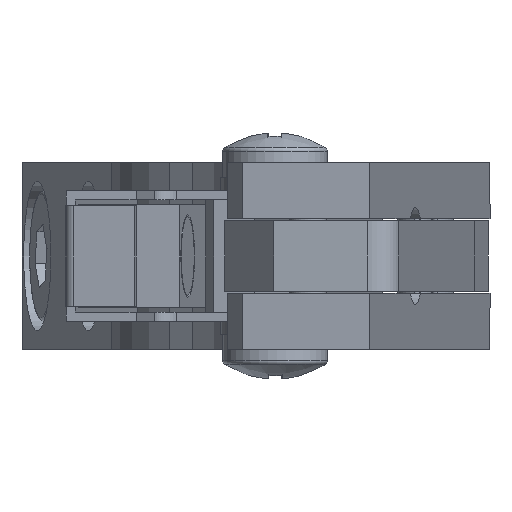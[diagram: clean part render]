
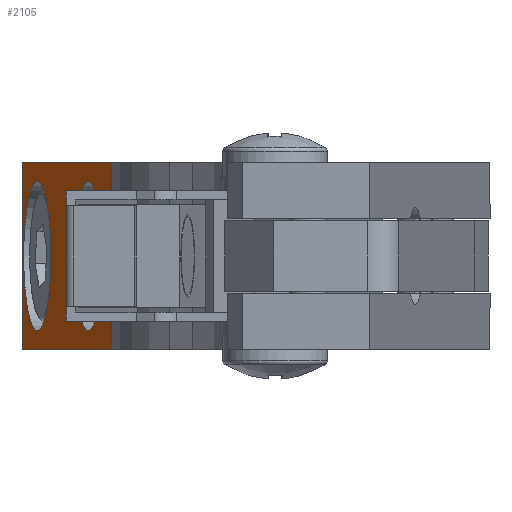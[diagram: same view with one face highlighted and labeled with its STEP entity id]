
A CAD part, left-side view. The second image highlights one B-rep face of the part: STEP entity #2105.
In plain terms, the highlighted planar face has unit normal (-0.182, 0.983, 0).
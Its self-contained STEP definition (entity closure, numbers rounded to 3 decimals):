
#450 = CARTESIAN_POINT ( 'NONE',  ( -55.242, 84.588, -5. ) ) ;
#471 = CIRCLE ( 'NONE', #4709, 4. ) ;
#605 = CIRCLE ( 'NONE', #1070, 4. ) ;
#612 = VERTEX_POINT ( 'NONE', #8929 ) ;
#975 = CARTESIAN_POINT ( 'NONE',  ( -74.416, 81.039, 0. ) ) ;
#1070 = AXIS2_PLACEMENT_3D ( 'NONE', #975, #5817, #1634 ) ;
#1074 = VERTEX_POINT ( 'NONE', #6195 ) ;
#1088 = VERTEX_POINT ( 'NONE', #450 ) ;
#1128 = EDGE_CURVE ( 'NONE', #1074, #612, #6874, .T. ) ;
#1390 = AXIS2_PLACEMENT_3D ( 'NONE', #2629, #2943, #3358 ) ;
#1634 = DIRECTION ( 'NONE',  ( -0.983, -0.182, 0. ) ) ;
#2105 = ADVANCED_FACE ( 'NONE', ( #5299, #5305, #5267 ), #2514, .F. ) ;
#2225 = VERTEX_POINT ( 'NONE', #8209 ) ;
#2270 = VECTOR ( 'NONE', #3662, 1000. ) ;
#2322 = LINE ( 'NONE', #4389, #2270 ) ;
#2370 = DIRECTION ( 'NONE',  ( -0.182, 0.983, 0. ) ) ;
#2514 = PLANE ( 'NONE',  #1390 ) ;
#2629 = CARTESIAN_POINT ( 'NONE',  ( -79.574, 80.084, 5. ) ) ;
#2835 = CARTESIAN_POINT ( 'NONE',  ( -79.574, 80.084, -5. ) ) ;
#2922 = EDGE_LOOP ( 'NONE', ( #6063 ) ) ;
#2943 = DIRECTION ( 'NONE',  ( 0.182, -0.983, 0. ) ) ;
#3090 = CARTESIAN_POINT ( 'NONE',  ( -55.242, 84.588, 5. ) ) ;
#3358 = DIRECTION ( 'NONE',  ( 0.983, 0.182, 0. ) ) ;
#3360 = EDGE_LOOP ( 'NONE', ( #5588, #5691, #5895, #5213 ) ) ;
#3662 = DIRECTION ( 'NONE',  ( 0., 0., 1. ) ) ;
#3757 = EDGE_LOOP ( 'NONE', ( #5509 ) ) ;
#4152 = EDGE_CURVE ( 'NONE', #2225, #612, #2322, .T. ) ;
#4389 = CARTESIAN_POINT ( 'NONE',  ( -81.2, 79.783, 5. ) ) ;
#4588 = VERTEX_POINT ( 'NONE', #5640 ) ;
#4606 = VERTEX_POINT ( 'NONE', #4897 ) ;
#4709 = AXIS2_PLACEMENT_3D ( 'NONE', #6630, #2370, #7354 ) ;
#4897 = CARTESIAN_POINT ( 'NONE',  ( -78.349, 80.311, 0. ) ) ;
#5027 = DIRECTION ( 'NONE',  ( -0.983, -0.182, 0. ) ) ;
#5213 = ORIENTED_EDGE ( 'NONE', *, *, #8195, .T. ) ;
#5267 = FACE_BOUND ( 'NONE', #2922, .T. ) ;
#5299 = FACE_OUTER_BOUND ( 'NONE', #3360, .T. ) ;
#5305 = FACE_BOUND ( 'NONE', #3757, .T. ) ;
#5452 = EDGE_CURVE ( 'NONE', #4606, #4606, #605, .T. ) ;
#5509 = ORIENTED_EDGE ( 'NONE', *, *, #5452, .F. ) ;
#5585 = EDGE_CURVE ( 'NONE', #4588, #4588, #471, .T. ) ;
#5588 = ORIENTED_EDGE ( 'NONE', *, *, #7046, .T. ) ;
#5640 = CARTESIAN_POINT ( 'NONE',  ( -63.6, 83.041, 0. ) ) ;
#5691 = ORIENTED_EDGE ( 'NONE', *, *, #4152, .T. ) ;
#5817 = DIRECTION ( 'NONE',  ( -0.182, 0.983, 0. ) ) ;
#5895 = ORIENTED_EDGE ( 'NONE', *, *, #1128, .F. ) ;
#6063 = ORIENTED_EDGE ( 'NONE', *, *, #5585, .F. ) ;
#6195 = CARTESIAN_POINT ( 'NONE',  ( -55.242, 84.588, 5. ) ) ;
#6223 = LINE ( 'NONE', #3090, #6263 ) ;
#6263 = VECTOR ( 'NONE', #8112, 1000. ) ;
#6630 = CARTESIAN_POINT ( 'NONE',  ( -59.667, 83.769, 0. ) ) ;
#6801 = VECTOR ( 'NONE', #5027, 1000. ) ;
#6874 = LINE ( 'NONE', #8305, #6801 ) ;
#7046 = EDGE_CURVE ( 'NONE', #1088, #2225, #7757, .T. ) ;
#7153 = DIRECTION ( 'NONE',  ( -0.983, -0.182, 0. ) ) ;
#7354 = DIRECTION ( 'NONE',  ( -0.983, -0.182, 0. ) ) ;
#7736 = VECTOR ( 'NONE', #7153, 1000. ) ;
#7757 = LINE ( 'NONE', #2835, #7736 ) ;
#8112 = DIRECTION ( 'NONE',  ( 0., 0., -1. ) ) ;
#8195 = EDGE_CURVE ( 'NONE', #1074, #1088, #6223, .T. ) ;
#8209 = CARTESIAN_POINT ( 'NONE',  ( -81.2, 79.783, -5. ) ) ;
#8305 = CARTESIAN_POINT ( 'NONE',  ( -79.574, 80.084, 5. ) ) ;
#8929 = CARTESIAN_POINT ( 'NONE',  ( -81.2, 79.783, 5. ) ) ;
